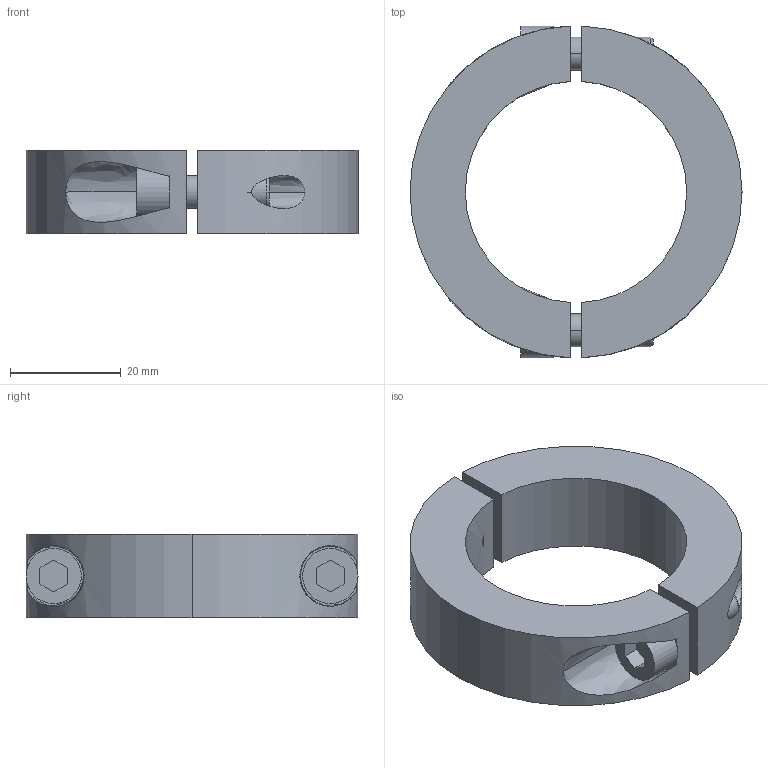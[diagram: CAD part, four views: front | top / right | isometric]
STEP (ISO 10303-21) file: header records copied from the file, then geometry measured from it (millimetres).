
FILE_DESCRIPTION (( 'STEP AP214' ), '1' );
FILE_NAME ('bague d''arret D40.STEP', '2017-04-06T07:50:23', ( '' ), ( '' ), 'SwSTEP 2.0', 'SolidWorks 2016', '' );
FILE_SCHEMA (( 'AUTOMOTIVE_DESIGN' ));
Length unit declared in the file: millimetre
Products named in the file (5): f2-320-40_03; bague d''arret D40; f2-320-40_04; f2-320-40_02; f2-320-40_01
Assembly tree (4 placements, depth 2):
  bague d''arret D40
    f2-320-40_01
    f2-320-40_02
    f2-320-40_03
    f2-320-40_04
Bounding box: 60 x 60 x 15 mm (x, y, z)
Volume: 21536.6 mm3; surface area: 10659.5 mm2
Topology: 4 solids, 4 shells, 58 faces, 138 edges, 92 vertices
Faces by surface type: plane 30, bspline 17, cylinder 11
Entity records: 2235 total; most frequent: CARTESIAN_POINT 704, ORIENTED_EDGE 276, DIRECTION 274, EDGE_CURVE 138, AXIS2_PLACEMENT_3D 98, VERTEX_POINT 92, VECTOR 78, LINE 78
